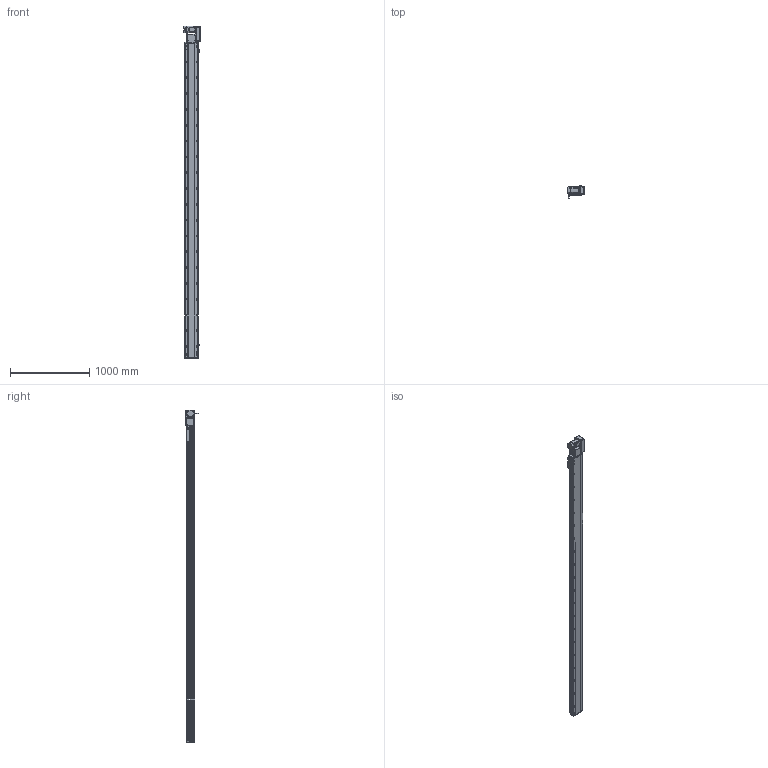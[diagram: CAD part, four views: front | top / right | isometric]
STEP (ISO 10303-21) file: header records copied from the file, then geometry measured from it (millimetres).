
FILE_DESCRIPTION (( 'STEP AP214' ), '1' );
FILE_NAME ('RTB17S-XX-3700-R-M75-C4.STEP', '2025-12-12T01:55:01', ( '' ), ( '' ), 'SwSTEP 2.0', 'SolidWorks 2018', '' );
FILE_SCHEMA (( 'AUTOMOTIVE_DESIGN' ));
Length unit declared in the file: millimetre
Products named in the file (15): RTB22S-GY-018P^RTB17S-R-々湍釱蚾饜-750W_RTB17S-XX-XX-R-M75-C4; RTB17S-R-々湍釱蚾饜-750W^RTB17S-XX-XX-R-M75-C4; RTH13-BL-012覜茼え俋离^RTB17S-賑釱_RTB17S-XX-XX-R-M75-C4; 750W萇儂^RTB17S-XX-XX-R-M75-C4; RTB22S-GY-005P^RTB17S-R-々湍釱蚾饜-750W_RTB17S-XX-XX-R-M75-C4; RTB22S-GY-017P^RTB17S-R-々湍釱蚾饜-750W_RTB17S-XX-XX-R-M75-C4; RTB17S-賑釱^RTB17S-XX-XX-R-M75-C4; RTB17S-L-001-耜醱啣^RTB17S-XX-XX-R-M75-C4; EE672^RTB17S-XX-XX-R-M75-C4; RTB17S-XX-3700-R-M75-C4; RTB17-R-011菁釱^RTB17S-XX-XX-R-M75-C4; RTB17S-L-014-T20-P75--々湍釱^RTB17S-R-々湍釱蚾饜-750W_RTB17S-XX-XX-R-M75-C4; RTB17S-L-004-賑釱^RTB17S-賑釱_RTB17S-XX-XX-R-M75-C4; RTB22S-GY-008-M75--萇儂啣^RTB17S-R-々湍釱蚾饜-750W_RTB17S-XX-XX-R-M75-C4; RTB17S-L-007奻裔^RTB17S-XX-XX-R-M75-C4
Assembly tree (17 placements, depth 3):
  RTB17S-XX-3700-R-M75-C4
    RTB17-R-011菁釱^RTB17S-XX-XX-R-M75-C4
    EE672^RTB17S-XX-XX-R-M75-C4  x3
    RTB17S-L-001-耜醱啣^RTB17S-XX-XX-R-M75-C4
    RTB17S-賑釱^RTB17S-XX-XX-R-M75-C4
      RTB17S-L-004-賑釱^RTB17S-賑釱_RTB17S-XX-XX-R-M75-C4
      RTH13-BL-012覜茼え俋离^RTB17S-賑釱_RTB17S-XX-XX-R-M75-C4
    RTB17S-L-007奻裔^RTB17S-XX-XX-R-M75-C4
    750W萇儂^RTB17S-XX-XX-R-M75-C4
    RTB17S-R-々湍釱蚾饜-750W^RTB17S-XX-XX-R-M75-C4
      RTB17S-L-014-T20-P75--々湍釱^RTB17S-R-々湍釱蚾饜-750W_RTB17S-XX-XX-R-M75-C4
      RTB22S-GY-005P^RTB17S-R-々湍釱蚾饜-750W_RTB17S-XX-XX-R-M75-C4
      RTB22S-GY-017P^RTB17S-R-々湍釱蚾饜-750W_RTB17S-XX-XX-R-M75-C4  x2
      RTB22S-GY-008-M75--萇儂啣^RTB17S-R-々湍釱蚾饜-750W_RTB17S-XX-XX-R-M75-C4
      RTB22S-GY-018P^RTB17S-R-々湍釱蚾饜-750W_RTB17S-XX-XX-R-M75-C4
Bounding box: 207.4 x 152.7 x 4199 mm (x, y, z)
Volume: 29076646.8 mm3; surface area: 5388307.3 mm2
Topology: 17 solids, 17 shells, 2313 faces, 6538 edges, 4238 vertices
Faces by surface type: plane 998, cylinder 899, bspline 294, cone 110, sphere 8, torus 4
Entity records: 68854 total; most frequent: CARTESIAN_POINT 20602, ORIENTED_EDGE 9920, DIRECTION 9122, EDGE_CURVE 4960, AXIS2_PLACEMENT_3D 3258, VERTEX_POINT 3242, LINE 2606, VECTOR 2606
